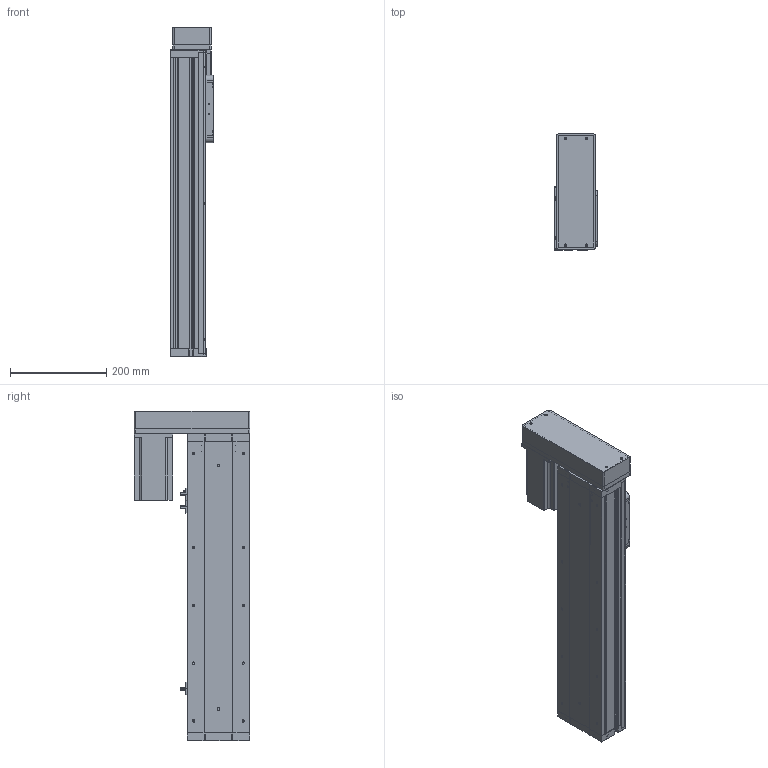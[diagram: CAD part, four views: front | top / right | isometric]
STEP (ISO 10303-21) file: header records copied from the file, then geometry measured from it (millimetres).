
FILE_DESCRIPTION (( 'STEP AP214' ), '1' );
FILE_NAME ('KSD130S-P2010-ML-CR-S400.STEP', '2019-09-24T05:59:47', ( '微软用户' ), ( '微软中国' ), 'SwSTEP 2.0', 'SolidWorks 2014', '' );
FILE_SCHEMA (( 'AUTOMOTIVE_DESIGN' ));
Length unit declared in the file: millimetre
Products named in the file (14): 130宽全封闭端盖丝杠; 130宽底板全封闭丝杠-400行程; KSD130S-P2010-ML-CR-S400; 130宽模组保护罩左右折; 台达ECMA－C20807AS伺服电机; 130宽模组马达安装板连板左右折丝杆; 感应片130宽全封闭; U倰嫖萇EEㄜSX672; 130遵裔啣揤啣1; 130宽盖板全封闭-400行程; 130宽滚珠螺姆安装板1防护罩; 130宽滚珠螺姆安装板1; 130宽侧板全封闭-400行程; 130宽全封闭马达安装板丝杠
Assembly tree (17 placements, depth 2):
  KSD130S-P2010-ML-CR-S400
    130宽底板全封闭丝杠-400行程
    130宽全封闭端盖丝杠
    130宽全封闭马达安装板丝杠
    130宽侧板全封闭-400行程  x2
    130宽滚珠螺姆安装板1
    130宽滚珠螺姆安装板1防护罩
    130宽盖板全封闭-400行程
    130遵裔啣揤啣1  x2
    U倰嫖萇EEㄜSX672  x3
    感应片130宽全封闭
    130宽模组马达安装板连板左右折丝杆
    台达ECMA－C20807AS伺服电机
    130宽模组保护罩左右折
Bounding box: 90 x 240 x 684.5 mm (x, y, z)
Volume: 3029551.3 mm3; surface area: 916658.4 mm2
Topology: 18 solids, 18 shells, 1410 faces, 3848 edges, 2439 vertices
Faces by surface type: cylinder 612, plane 611, cone 187
Entity records: 42582 total; most frequent: DIRECTION 6475, CARTESIAN_POINT 6419, ORIENTED_EDGE 6030, EDGE_CURVE 3015, AXIS2_PLACEMENT_3D 2311, VERTEX_POINT 1969, VECTOR 1853, LINE 1853
